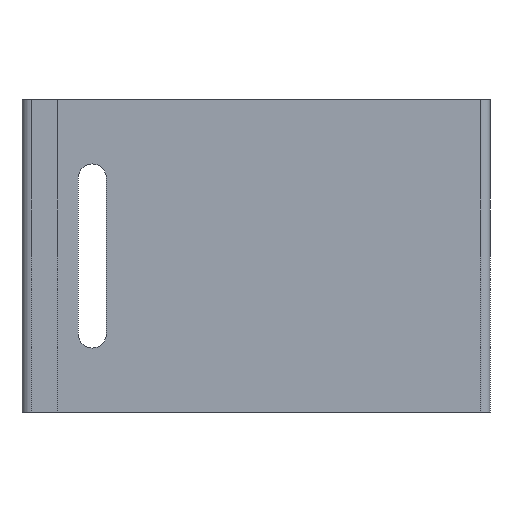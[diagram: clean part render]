
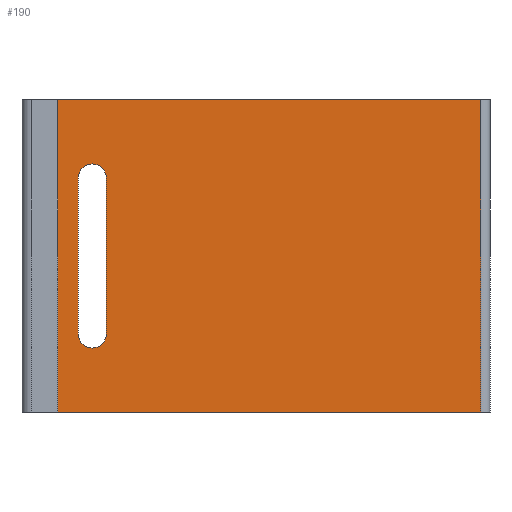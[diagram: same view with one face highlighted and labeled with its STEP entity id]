
A CAD part, front view. The second image highlights one B-rep face of the part: STEP entity #190.
In plain terms, the highlighted planar face has unit normal (0, -1, 0).
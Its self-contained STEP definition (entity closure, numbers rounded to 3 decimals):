
#42 = VERTEX_POINT ( 'NONE', #336 ) ;
#69 = EDGE_CURVE ( 'NONE', #283, #42, #417, .T. ) ;
#163 = ORIENTED_EDGE ( 'NONE', *, *, #183, .T. ) ;
#165 = ORIENTED_EDGE ( 'NONE', *, *, #264, .F. ) ;
#166 = ORIENTED_EDGE ( 'NONE', *, *, #178, .F. ) ;
#167 = ORIENTED_EDGE ( 'NONE', *, *, #175, .F. ) ;
#168 = ORIENTED_EDGE ( 'NONE', *, *, #69, .T. ) ;
#169 = ORIENTED_EDGE ( 'NONE', *, *, #246, .F. ) ;
#170 = VERTEX_POINT ( 'NONE', #570 ) ;
#171 = VERTEX_POINT ( 'NONE', #569 ) ;
#172 = EDGE_CURVE ( 'NONE', #170, #174, #554, .T. ) ;
#173 = EDGE_LOOP ( 'NONE', ( #168, #176, #165, #163 ) ) ;
#174 = VERTEX_POINT ( 'NONE', #555 ) ;
#175 = EDGE_CURVE ( 'NONE', #174, #243, #560, .T. ) ;
#176 = ORIENTED_EDGE ( 'NONE', *, *, #191, .F. ) ;
#177 = ORIENTED_EDGE ( 'NONE', *, *, #179, .F. ) ;
#178 = EDGE_CURVE ( 'NONE', #239, #171, #540, .T. ) ;
#179 = EDGE_CURVE ( 'NONE', #171, #170, #566, .T. ) ;
#180 = EDGE_LOOP ( 'NONE', ( #181, #177, #166, #169, #167 ) ) ;
#181 = ORIENTED_EDGE ( 'NONE', *, *, #172, .F. ) ;
#183 = EDGE_CURVE ( 'NONE', #266, #283, #591, .T. ) ;
#190 = ADVANCED_FACE ( 'NONE', ( #588, #587 ), #548, .F. ) ;
#191 = EDGE_CURVE ( 'NONE', #259, #42, #584, .T. ) ;
#239 = VERTEX_POINT ( 'NONE', #636 ) ;
#243 = VERTEX_POINT ( 'NONE', #686 ) ;
#246 = EDGE_CURVE ( 'NONE', #243, #239, #691, .T. ) ;
#259 = VERTEX_POINT ( 'NONE', #665 ) ;
#264 = EDGE_CURVE ( 'NONE', #266, #259, #717, .T. ) ;
#266 = VERTEX_POINT ( 'NONE', #600 ) ;
#283 = VERTEX_POINT ( 'NONE', #755 ) ;
#336 = CARTESIAN_POINT ( 'NONE',  ( 135.5, 24., -50. ) ) ;
#361 = CARTESIAN_POINT ( 'NONE',  ( -11.5, 24., -50. ) ) ;
#415 = DIRECTION ( 'NONE',  ( 1., 0., 0. ) ) ;
#416 = VECTOR ( 'NONE', #415, 1000. ) ;
#417 = LINE ( 'NONE', #361, #416 ) ;
#539 = CARTESIAN_POINT ( 'NONE',  ( 15.5, 24., 25. ) ) ;
#540 = LINE ( 'NONE', #539, #564 ) ;
#541 = CARTESIAN_POINT ( 'NONE',  ( -8.5, 24., 50. ) ) ;
#544 = CARTESIAN_POINT ( 'NONE',  ( 11., 24., 25. ) ) ;
#545 = DIRECTION ( 'NONE',  ( 0., 0., -1. ) ) ;
#546 = DIRECTION ( 'NONE',  ( 0., -1., 0. ) ) ;
#547 = CARTESIAN_POINT ( 'NONE',  ( 11., 24., -25. ) ) ;
#548 = PLANE ( 'NONE',  #585 ) ;
#550 = AXIS2_PLACEMENT_3D ( 'NONE', #544, #595, #594 ) ;
#552 = DIRECTION ( 'NONE',  ( 0., 0., -1. ) ) ;
#553 = VECTOR ( 'NONE', #552, 1000. ) ;
#554 = LINE ( 'NONE', #559, #553 ) ;
#555 = CARTESIAN_POINT ( 'NONE',  ( 6.5, 24., -25. ) ) ;
#556 = AXIS2_PLACEMENT_3D ( 'NONE', #547, #546, #545 ) ;
#559 = CARTESIAN_POINT ( 'NONE',  ( 6.5, 24., 25. ) ) ;
#560 = CIRCLE ( 'NONE', #556, 4.5 ) ;
#563 = DIRECTION ( 'NONE',  ( 0., 0., 1. ) ) ;
#564 = VECTOR ( 'NONE', #563, 1000. ) ;
#566 = CIRCLE ( 'NONE', #550, 4.5 ) ;
#569 = CARTESIAN_POINT ( 'NONE',  ( 15.5, 24., 25. ) ) ;
#570 = CARTESIAN_POINT ( 'NONE',  ( 6.5, 24., 25. ) ) ;
#574 = DIRECTION ( 'NONE',  ( 0., 0., -1. ) ) ;
#577 = DIRECTION ( 'NONE',  ( 0., 0., 1. ) ) ;
#578 = DIRECTION ( 'NONE',  ( 0., 1., 0. ) ) ;
#579 = CARTESIAN_POINT ( 'NONE',  ( -11.5, 24., 50. ) ) ;
#584 = LINE ( 'NONE', #593, #592 ) ;
#585 = AXIS2_PLACEMENT_3D ( 'NONE', #579, #578, #577 ) ;
#587 = FACE_OUTER_BOUND ( 'NONE', #173, .T. ) ;
#588 = FACE_BOUND ( 'NONE', #180, .T. ) ;
#589 = DIRECTION ( 'NONE',  ( 0., 0., -1. ) ) ;
#590 = VECTOR ( 'NONE', #589, 1000. ) ;
#591 = LINE ( 'NONE', #541, #590 ) ;
#592 = VECTOR ( 'NONE', #574, 1000. ) ;
#593 = CARTESIAN_POINT ( 'NONE',  ( 135.5, 24., 50. ) ) ;
#594 = DIRECTION ( 'NONE',  ( 0., 0., -1. ) ) ;
#595 = DIRECTION ( 'NONE',  ( 0., -1., 0. ) ) ;
#600 = CARTESIAN_POINT ( 'NONE',  ( -8.5, 24., 50. ) ) ;
#636 = CARTESIAN_POINT ( 'NONE',  ( 15.5, 24., -25. ) ) ;
#665 = CARTESIAN_POINT ( 'NONE',  ( 135.5, 24., 50. ) ) ;
#676 = DIRECTION ( 'NONE',  ( 0., 0., -1. ) ) ;
#677 = DIRECTION ( 'NONE',  ( 0., -1., 0. ) ) ;
#678 = CARTESIAN_POINT ( 'NONE',  ( 11., 24., -25. ) ) ;
#679 = AXIS2_PLACEMENT_3D ( 'NONE', #678, #677, #676 ) ;
#686 = CARTESIAN_POINT ( 'NONE',  ( 11., 24., -29.5 ) ) ;
#691 = CIRCLE ( 'NONE', #679, 4.5 ) ;
#714 = DIRECTION ( 'NONE',  ( 1., 0., 0. ) ) ;
#715 = VECTOR ( 'NONE', #714, 1000. ) ;
#716 = CARTESIAN_POINT ( 'NONE',  ( -11.5, 24., 50. ) ) ;
#717 = LINE ( 'NONE', #716, #715 ) ;
#755 = CARTESIAN_POINT ( 'NONE',  ( -8.5, 24., -50. ) ) ;
